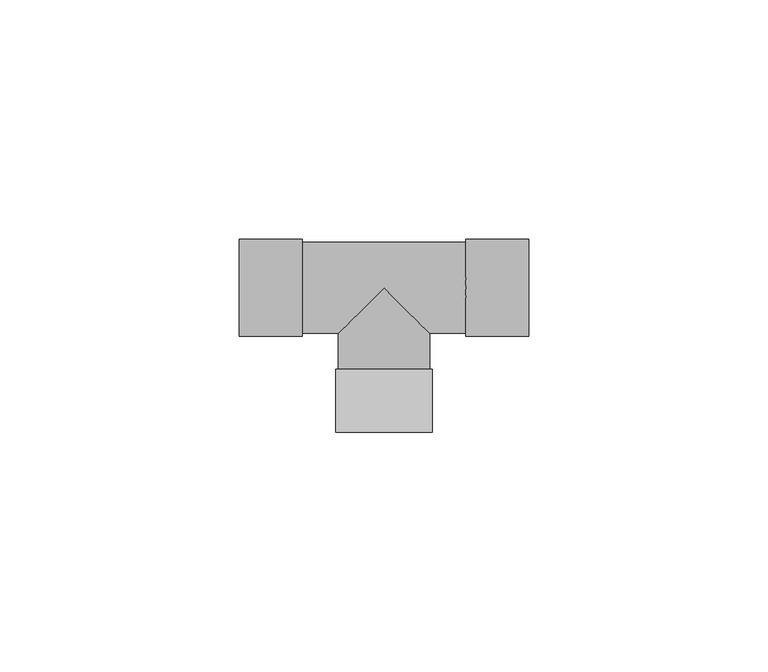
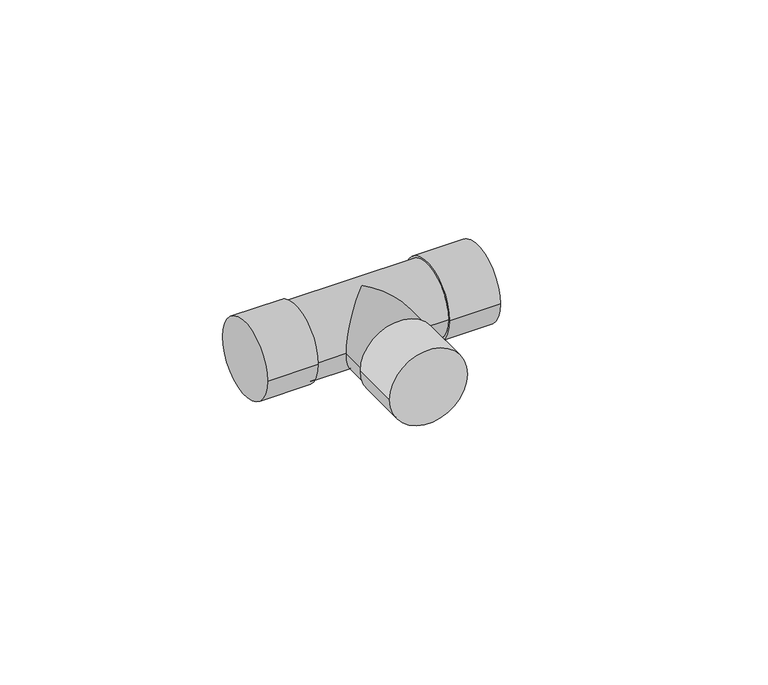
"""IFC4 building model written with IfcOpenShell, lengths in millimetres: pipe fitting geometry, Tê - Soldado - CU : Padrão."""

import ifcopenshell
import ifcopenshell.guid

model = None  # the IFC model being written
_history = None  # IfcOwnerHistory: only IFC2X3 demands one
_inside = {}  # id of a spatial element -> (the spatial element, [elements in it])
_under = {}  # id of a project, library or spatial element -> (it, [spatial elements below it])
_declared = {}  # id of a project -> (the project, [libraries it declares])
_typed = {}  # id of a type object -> (the type object, [elements of that type])
_made_of = {}  # id of a material, layer set ... -> (it, [elements and type objects made of it])


def new_model(schema):
    """Start an empty IFC model of exactly this schema.

    Asked for "IFC4X3", IfcOpenShell would pick the latest addendum, in which some entities
    have other attributes; the version numbers below select the first issue.
    IFC2X3 requires an IfcOwnerHistory on every rooted entity: one is made here for all.
    """
    global model, _history
    if schema == "IFC4X3":
        model = ifcopenshell.file(schema_version=(4, 3, 0, 0))
    else:
        model = ifcopenshell.file(schema=schema)
    _inside.clear()
    _under.clear()
    _declared.clear()
    _typed.clear()
    _made_of.clear()
    _history = None
    if model.schema == "IFC2X3":
        org = make("IfcOrganization", Name="unknown")
        user = make(
            "IfcPersonAndOrganization",
            ThePerson=make("IfcPerson", FamilyName="unknown"),
            TheOrganization=org,
        )
        app = make(
            "IfcApplication",
            ApplicationDeveloper=org,
            Version="unknown",
            ApplicationFullName="unknown",
            ApplicationIdentifier="unknown",
        )
        _history = make(
            "IfcOwnerHistory",
            OwningUser=user,
            OwningApplication=app,
            ChangeAction="ADDED",
            CreationDate=0,
        )
    return model


def make(cls, **values):
    """One entity of the class cls with the attributes given. An attribute that is None is left unset."""
    return model.create_entity(
        cls, **{name: value for name, value in values.items() if value is not None}
    )


def rooted(cls, **values):
    """An entity with a GlobalId (a new one), such as an element, a storey or a relation."""
    return make(cls, GlobalId=ifcopenshell.guid.new(), OwnerHistory=_history, **values)


def si_unit(unit_type, name, prefix=None):
    """IfcSIUnit, for example si_unit("LENGTHUNIT", "METRE", prefix="MILLI")."""
    return make("IfcSIUnit", UnitType=unit_type, Prefix=prefix, Name=name)


def assignment(units):
    """IfcUnitAssignment: the units of a project."""
    return None if units is None else make("IfcUnitAssignment", Units=units)


def point(xyz):
    """IfcCartesianPoint."""
    return None if xyz is None else make("IfcCartesianPoint", Coordinates=xyz)


def direction(xyz):
    """IfcDirection."""
    return None if xyz is None else make("IfcDirection", DirectionRatios=xyz)


def frame(location, z_axis=None, x_axis=None):
    """IfcAxis2Placement3D, a coordinate frame: its origin and axes. An axis left out is left unset."""
    return make(
        "IfcAxis2Placement3D",
        Location=point(location),
        Axis=direction(z_axis),
        RefDirection=direction(x_axis),
    )


def origin():
    """The frame at (0, 0, 0) with its axes left unset."""
    return frame((0.0, 0.0, 0.0))


def place(relative_to, where):
    """IfcLocalPlacement: puts the frame where relative to a parent placement (None: the world)."""
    return make(
        "IfcLocalPlacement", PlacementRelTo=relative_to, RelativePlacement=where
    )


def context(
    kind, dimensions, precision=None, world=None, true_north=None, identifier=None
):
    """IfcGeometricRepresentationContext, for example the 3D "Model" context."""
    return make(
        "IfcGeometricRepresentationContext",
        ContextIdentifier=identifier,
        ContextType=kind,
        CoordinateSpaceDimension=dimensions,
        Precision=precision,
        WorldCoordinateSystem=world,
        TrueNorth=true_north,
    )


def project(units=None, contexts=None):
    """IfcProject with its units and contexts."""
    return rooted(
        "IfcProject",
        Name="project",
        RepresentationContexts=contexts,
        UnitsInContext=assignment(units),
    )


def spatial(cls, under=None, at=None, **own):
    """A site, building, storey or space (cls), placed at a placement, below another one or the project."""
    s = rooted(cls, ObjectPlacement=at, **own)
    if under is not None:
        _under.setdefault(under.id(), (under, []))[1].append(s)
    return s


def circle_curve(where, radius):
    """IfcCircle in the frame where."""
    return make("IfcCircle", Position=where, Radius=radius)


def ellipse_curve(where, semi_axis1, semi_axis2):
    """IfcEllipse in the frame where."""
    return make(
        "IfcEllipse", Position=where, SemiAxis1=semi_axis1, SemiAxis2=semi_axis2
    )


def shape(context_of_items, identifier, shape_type, items):
    """IfcShapeRepresentation: the items that make up one representation, for example the "Body"."""
    return make(
        "IfcShapeRepresentation",
        ContextOfItems=context_of_items,
        RepresentationIdentifier=identifier,
        RepresentationType=shape_type,
        Items=items,
    )


def source(mapping_origin, context_of_items, identifier, shape_type, items):
    """IfcRepresentationMap: a shape defined once, which mapped items show again and again."""
    return make(
        "IfcRepresentationMap",
        MappingOrigin=mapping_origin,
        MappedRepresentation=shape(context_of_items, identifier, shape_type, items),
    )


def transform(
    local_origin,
    x_axis=None,
    y_axis=None,
    z_axis=None,
    scale=None,
    scale2=None,
    scale3=None,
    uniform=True,
):
    """IfcCartesianTransformationOperator3D, or its non-uniform kind. x_axis, y_axis, z_axis: its Axis1, 2, 3."""
    if uniform:
        return make(
            "IfcCartesianTransformationOperator3D",
            Axis1=direction(x_axis),
            Axis2=direction(y_axis),
            LocalOrigin=point(local_origin),
            Scale=scale,
            Axis3=direction(z_axis),
        )
    return make(
        "IfcCartesianTransformationOperator3DnonUniform",
        Axis1=direction(x_axis),
        Axis2=direction(y_axis),
        LocalOrigin=point(local_origin),
        Scale=scale,
        Axis3=direction(z_axis),
        Scale2=scale2,
        Scale3=scale3,
    )


def mapped(mapping_source, mapping_target):
    """IfcMappedItem: shows the shape of a source again, moved by a transform."""
    return make(
        "IfcMappedItem", MappingSource=mapping_source, MappingTarget=mapping_target
    )


def made_of(thing, what):
    """Note that an element or type object is made of a material, layer set ...; save() writes the relation."""
    if what is not None:
        _made_of.setdefault(what.id(), (what, []))[1].append(thing)
    return thing


def element(
    cls,
    number,
    at=None,
    inside=None,
    cuts=None,
    type_object=None,
    material=None,
    context=None,
    identifier="Body",
    shape_type=None,
    held_by="IfcProductDefinitionShape",
    body=None,
    shapes=None,
    **own,
):
    """One element of the class cls, such as IfcWall. Its Tag is "e" and its number.

    at: its placement. inside: the storey or other place that contains it. cuts: it is an
    opening in that element (IfcRelVoidsElement). A single representation is given by context,
    identifier, shape_type and body (its items); several are given by shapes. held_by: the class
    of the entity that holds the representations. save() writes the other relations.
    """
    e = rooted(cls, Tag="e%d" % number, ObjectPlacement=at, **own)
    if body is not None:
        shapes = [shape(context, identifier, shape_type, body)]
    if shapes is not None:
        e.Representation = make(held_by, Representations=shapes)
    if inside is not None:
        _inside.setdefault(inside.id(), (inside, []))[1].append(e)
    if cuts is not None:
        rooted(
            "IfcRelVoidsElement", RelatingBuildingElement=cuts, RelatedOpeningElement=e
        )
    if type_object is not None:
        _typed.setdefault(type_object.id(), (type_object, []))[1].append(e)
    return made_of(e, material)


def aggregate(whole, parts):
    """IfcRelAggregates: a whole, such as a stair, and the parts it consists of."""
    return rooted("IfcRelAggregates", RelatingObject=whole, RelatedObjects=parts)


def save(model, path):
    """Write the relations noted so far, then the file.

    IfcRelAggregates (storeys below a building ...), IfcRelContainedInSpatialStructure (elements
    in a storey), IfcRelDefinesByType, IfcRelAssociatesMaterial and IfcRelDeclares: one each for
    every whole, place, type object, material and project.
    """
    for whole, parts in _under.values():
        aggregate(whole, parts)
    for where, things in _inside.values():
        rooted(
            "IfcRelContainedInSpatialStructure",
            RelatedElements=things,
            RelatingStructure=where,
        )
    for kind, things in _typed.values():
        rooted("IfcRelDefinesByType", RelatedObjects=things, RelatingType=kind)
    for what, things in _made_of.values():
        rooted("IfcRelAssociatesMaterial", RelatedObjects=things, RelatingMaterial=what)
    for by, libraries in _declared.values():
        rooted("IfcRelDeclares", RelatingContext=by, RelatedDefinitions=libraries)
    model.write(path)


def plane_surface(at):
    """IfcPlane: the flat surface through the origin of the frame at, square to its z axis."""
    return make("IfcPlane", Position=at)


def cylinder_surface(at, radius):
    """IfcCylindricalSurface: all points at the distance radius from the z axis of the frame at."""
    return make("IfcCylindricalSurface", Position=at, Radius=radius)


def advanced_brep(points, edges, surfaces, faces):
    """IfcAdvancedBrep: a solid bounded by faces that lie on surfaces and meet in shared edges.

    An edge is (start, end): straight between two places in points (the first is 0);
    or (start, end, curve); or (start, end, curve, False) where it runs against its curve.
    A face is (place in surfaces, loops), or (place, loops, False) where it looks against
    its surface's normal. A loop lists edges by number (the first is 1), with a minus sign
    where the edge is run from its end to its start. The first loop is the outer one.
    """
    corners = [point(p) for p in points]
    vertices = [make("IfcVertexPoint", VertexGeometry=c) for c in corners]
    made = []
    for start, end, *more in edges:
        made.append(
            make(
                "IfcEdgeCurve",
                EdgeStart=vertices[start],
                EdgeEnd=vertices[end],
                EdgeGeometry=more[0] if more else make("IfcPolyline", Points=[corners[start], corners[end]]),
                SameSense=more[1] if len(more) > 1 else True,
            )
        )
    hull = []
    for where, loops, *sense in faces:
        bounds = []
        for j, loop in enumerate(loops):
            ring = [make("IfcOrientedEdge", EdgeElement=made[abs(k) - 1], Orientation=k > 0) for k in loop]
            bounds.append(
                make(
                    "IfcFaceOuterBound" if j == 0 else "IfcFaceBound",
                    Bound=make("IfcEdgeLoop", EdgeList=ring),
                    Orientation=True,
                )
            )
        hull.append(make("IfcAdvancedFace", Bounds=bounds, FaceSurface=surfaces[where], SameSense=sense[0] if sense else True))
    return make("IfcAdvancedBrep", Outer=make("IfcClosedShell", CfsFaces=hull))


def pipe_fitting_09966660(model_context):
    return source(origin(), model_context, "Body", "AdvancedBrep", [
        advanced_brep(
        [(10.0855, -30.1605, 0.0), (-10.0855, -30.1605, 0.0), (10.0855, -16.997, 0.0), (-10.0855, -16.997, 0.0), (9.525, -16.997, 0.0), (-9.525, -16.997, 0.0), (-30.19525, -10.0855, 0.0), (-30.19525, 10.0855, 0.0), (-17.03175, -10.0855, 0.0), (-17.03175, 10.0855, 0.0), (-17.03175, -9.525, 0.0), (-17.03175, 9.525, 0.0), (17.03175, 9.525, 0.0), (-9.525, -9.525, 0.0), (0.0, 0.0, 9.525), (9.525, -9.525, 0.0), (17.03175, -9.525, 0.0), (0.0, 0.0, -9.525), (17.03175, -10.0855, 0.0), (17.03175, 10.0855, 0.0), (30.19525, -10.0855, 0.0), (30.19525, 10.0855, 0.0)],
        [
            (0, 1, circle_curve(frame((0.0, -30.1605, 0.0), z_axis=(0.0, -1.0, 0.0), x_axis=(-1.0, 0.0, 0.0)), 10.0855)),
            (1, 0, circle_curve(frame((0.0, -30.1605, 0.0), z_axis=(0.0, -1.0, 0.0), x_axis=(-1.0, 0.0, 0.0)), 10.0855)),
            (2, 3, circle_curve(frame((0.0, -16.997, 0.0), z_axis=(0.0, 1.0, 0.0), x_axis=(-1.0, 0.0, 0.0)), 10.0855)),
            (3, 2, circle_curve(frame((0.0, -16.997, 0.0), z_axis=(0.0, 1.0, 0.0), x_axis=(-1.0, 0.0, 0.0)), 10.0855)),
            (4, 5, circle_curve(frame((0.0, -16.997, 0.0), z_axis=(0.0, -1.0, 0.0), x_axis=(1.0, 0.0, 0.0)), 9.525)),
            (5, 4, circle_curve(frame((0.0, -16.997, 0.0), z_axis=(0.0, -1.0, 0.0), x_axis=(1.0, 0.0, 0.0)), 9.525)),
            (0, 2),
            (3, 1),
            (6, 7, circle_curve(frame((-30.19525, 0.0, 0.0), z_axis=(-1.0, 0.0, 0.0), x_axis=(0.0, 1.0, 0.0)), 10.0855)),
            (7, 6, circle_curve(frame((-30.19525, 0.0, 0.0), z_axis=(-1.0, 0.0, 0.0), x_axis=(0.0, 1.0, 0.0)), 10.0855)),
            (8, 9, circle_curve(frame((-17.03175, 0.0, 0.0), z_axis=(1.0, 0.0, 0.0), x_axis=(0.0, 1.0, 0.0)), 10.0855)),
            (9, 8, circle_curve(frame((-17.03175, 0.0, 0.0), z_axis=(1.0, 0.0, 0.0), x_axis=(0.0, 1.0, 0.0)), 10.0855)),
            (10, 11, circle_curve(frame((-17.03175, 0.0, 0.0), z_axis=(-1.0, 0.0, 0.0), x_axis=(0.0, 1.0, 0.0)), 9.525)),
            (11, 10, circle_curve(frame((-17.03175, 0.0, 0.0), z_axis=(-1.0, 0.0, 0.0), x_axis=(0.0, 1.0, 0.0)), 9.525)),
            (6, 8),
            (9, 7),
            (12, 11),
            (10, 13),
            (13, 14, ellipse_curve(frame((0.0, 0.0, 0.0), z_axis=(-0.7071067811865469, 0.7071067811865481, 0.0), x_axis=(-0.707106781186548, -0.7071067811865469, 0.0)), 13.4703842, 9.525)),
            (14, 15, ellipse_curve(frame((0.0, 0.0, 0.0), z_axis=(0.7071067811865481, 0.7071067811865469, 0.0), x_axis=(-0.707106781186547, 0.7071067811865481, 0.0)), 13.4703842, 9.525)),
            (15, 16),
            (16, 12, circle_curve(frame((17.03175, 0.0, 0.0), z_axis=(-1.0, 0.0, 0.0), x_axis=(0.0, 1.0, 0.0)), 9.525)),
            (12, 16, circle_curve(frame((17.03175, 0.0, 0.0), z_axis=(-1.0, 0.0, 0.0), x_axis=(0.0, 1.0, 0.0)), 9.525)),
            (15, 17, ellipse_curve(frame((0.0, 0.0, 0.0), z_axis=(0.7071067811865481, 0.7071067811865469, 0.0), x_axis=(-0.707106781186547, 0.7071067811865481, 0.0)), 13.4703842, 9.525)),
            (17, 13, ellipse_curve(frame((0.0, 0.0, 0.0), z_axis=(-0.7071067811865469, 0.7071067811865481, 0.0), x_axis=(-0.707106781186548, -0.7071067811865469, 0.0)), 13.4703842, 9.525)),
            (18, 19, circle_curve(frame((17.03175, 0.0, 0.0), z_axis=(-1.0, 0.0, 0.0), x_axis=(0.0, 1.0, 0.0)), 10.0855)),
            (19, 18, circle_curve(frame((17.03175, 0.0, 0.0), z_axis=(-1.0, 0.0, 0.0), x_axis=(0.0, 1.0, 0.0)), 10.0855)),
            (20, 21, circle_curve(frame((30.19525, 0.0, 0.0), z_axis=(1.0, 0.0, 0.0), x_axis=(0.0, 1.0, 0.0)), 10.0855)),
            (21, 20, circle_curve(frame((30.19525, 0.0, 0.0), z_axis=(1.0, 0.0, 0.0), x_axis=(0.0, 1.0, 0.0)), 10.0855)),
            (18, 20),
            (21, 19),
            (4, 15),
            (13, 5),
        ],
        [
            plane_surface(frame((0.0, -30.1605, 0.0), z_axis=(0.0, -1.0, 0.0), x_axis=(0.0, 0.0, 1.0))),
            plane_surface(frame((0.0, -16.997, 0.0), z_axis=(0.0, 1.0, 0.0), x_axis=(0.0, 0.0, 1.0))),
            cylinder_surface(frame((0.0, -30.1605, 0.0), z_axis=(0.0, -1.0, 0.0), x_axis=(-1.0, 0.0, 0.0)), 10.0855),
            plane_surface(frame((-30.19525, 0.0, 0.0), z_axis=(-1.0, 0.0, 0.0), x_axis=(0.0, 0.0, 1.0))),
            plane_surface(frame((-17.03175, 0.0, 0.0), z_axis=(1.0, 0.0, 0.0), x_axis=(0.0, 0.0, 1.0))),
            cylinder_surface(frame((-30.19525, 0.0, 0.0), z_axis=(-1.0, 0.0, 0.0), x_axis=(0.0, 1.0, 0.0)), 10.0855),
            cylinder_surface(frame((-17.03175, 0.0, 0.0), z_axis=(-1.0, 0.0, 0.0), x_axis=(0.0, 1.0, 0.0)), 9.525),
            plane_surface(frame((17.03175, 0.0, 0.0), z_axis=(-1.0, 0.0, 0.0), x_axis=(0.0, 0.0, 1.0))),
            plane_surface(frame((30.19525, 0.0, 0.0), z_axis=(1.0, 0.0, 0.0), x_axis=(0.0, 0.0, 1.0))),
            cylinder_surface(frame((17.03175, 0.0, 0.0), z_axis=(-1.0, 0.0, 0.0), x_axis=(0.0, 1.0, 0.0)), 10.0855),
            cylinder_surface(frame((0.0, 0.0, 0.0), z_axis=(0.0, 1.0, 0.0), x_axis=(1.0, 0.0, 0.0)), 9.525),
        ],
        [
            (0, [[1, 2]]),
            (1, [[3, 4], [5, 6]]),
            (2, [[-1, 7, -4, 8]]),
            (2, [[-2, -8, -3, -7]]),
            (3, [[9, 10]]),
            (4, [[11, 12], [13, 14]]),
            (5, [[-9, 15, -12, 16]]),
            (5, [[-10, -16, -11, -15]]),
            (6, [[17, -13, 18, 19, 20, 21, 22]]),
            (6, [[-17, 23, -21, 24, 25, -18, -14]]),
            (7, [[26, 27], [-22, -23]]),
            (8, [[28, 29]]),
            (9, [[-26, 30, -29, 31]]),
            (9, [[-27, -31, -28, -30]]),
            (10, [[32, -20, -19, 33, -5]]),
            (10, [[-32, -6, -33, -25, -24]]),
        ],
    ),
    ])


if __name__ == "__main__":
    model = new_model("IFC4")
    model_context = context("Model", 3, world=origin())
    ifc_project = project(units=[si_unit("LENGTHUNIT", "METRE", prefix="MILLI")], contexts=[model_context])
    site = spatial("IfcSite", under=ifc_project)
    building = spatial("IfcBuilding", under=site)
    placement = place(None, origin())
    pipe_fitting_shape = pipe_fitting_09966660(model_context)
    element("IfcPipeFitting", 1, ObjectType="Tê - Soldado - CU : Padrão", at=placement, inside=building, context=model_context, shape_type="MappedRepresentation", body=[
        mapped(pipe_fitting_shape, transform((0.0, 0.0, 0.0), x_axis=(1.0, 0.0, 0.0), y_axis=(0.0, 1.0, 0.0), z_axis=(0.0, 0.0, 1.0))),
    ])
    save(model, "model.ifc")
